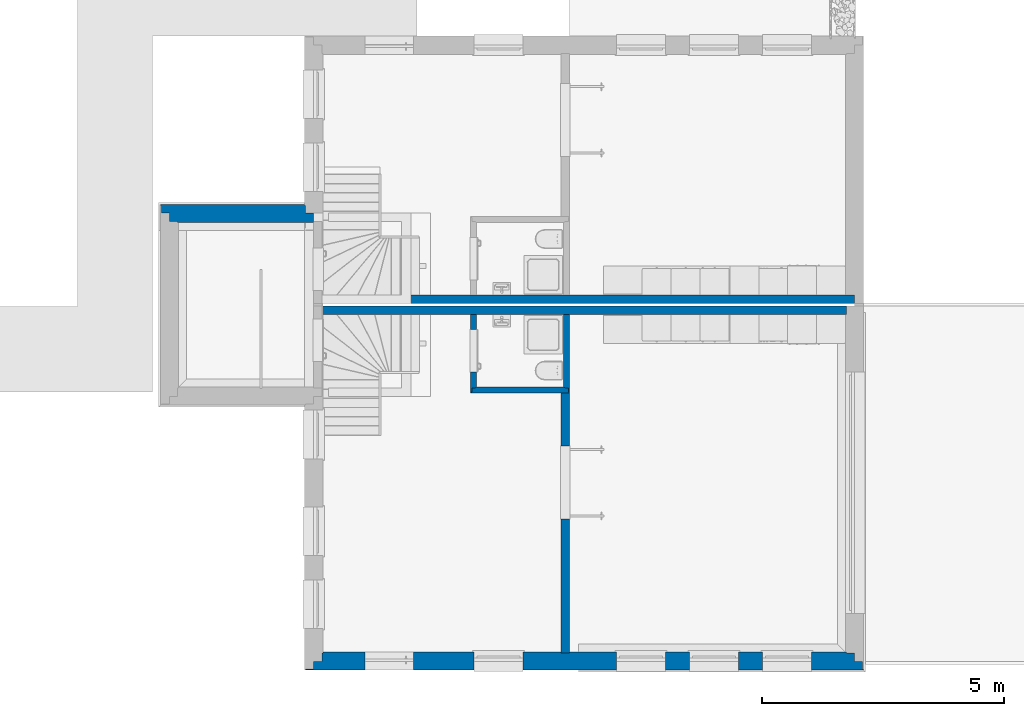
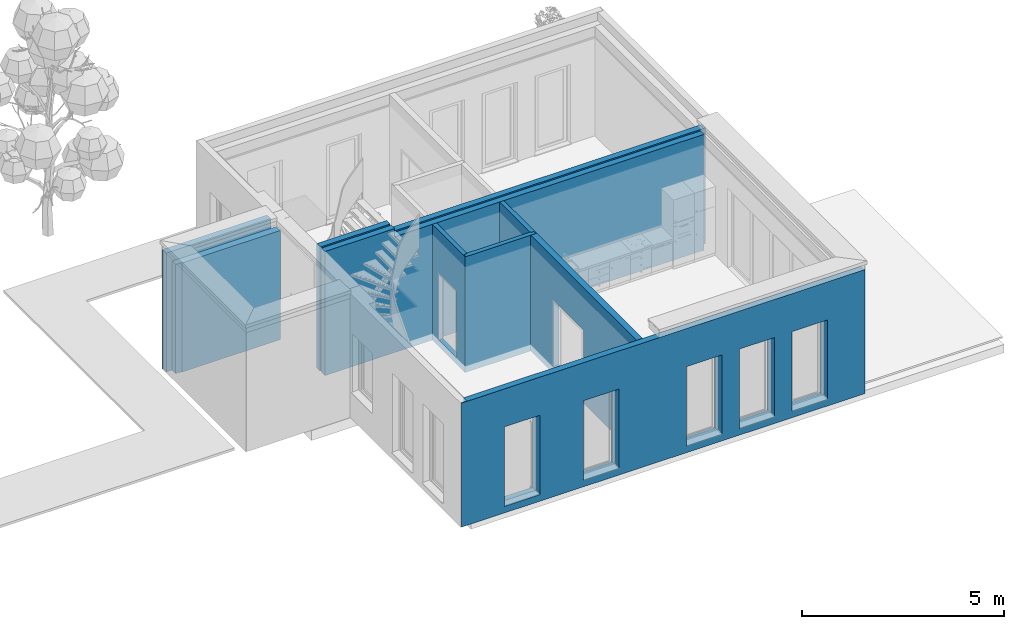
# One storey, part 7 of 28: 8 walls.
"""IFC4 building model written with IfcOpenShell, lengths in metres."""

from ifc_helpers import new_model, entity, si_unit, converted_unit, derived_unit, direction, frame, origin_with_axes, place, context, subcontext, project, spatial, triangles, material, constituent, constituent_set, type_object, element, save


model = new_model("IFC4")

# Units and contexts
model_context = context("Model", 3, precision=1e-05, world=origin_with_axes(), true_north=direction((-0.526213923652, 0.850352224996)))
body_context = subcontext(model_context, "Body", "Model", "MODEL_VIEW")
ifc_project = project(units=[si_unit("LENGTHUNIT", "METRE"), si_unit("AREAUNIT", "SQUARE_METRE"), si_unit("VOLUMEUNIT", "CUBIC_METRE"), converted_unit("PLANEANGLEUNIT", "DEGREE", entity("IfcPlaneAngleMeasure", 0.0174532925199), si_unit("PLANEANGLEUNIT", "RADIAN"), dimensions=[0, 0, 0, 0, 0, 0, 0]), si_unit("SOLIDANGLEUNIT", "STERADIAN"), converted_unit("TIMEUNIT", "Year", entity("IfcTimeMeasure", 31556926.0), si_unit("TIMEUNIT", "SECOND"), dimensions=[0, 0, 1, 0, 0, 0, 0]), si_unit("MASSUNIT", "GRAM", prefix="KILO"), si_unit("THERMODYNAMICTEMPERATUREUNIT", "DEGREE_CELSIUS"), si_unit("LUMINOUSINTENSITYUNIT", "LUMEN"), si_unit("ENERGYUNIT", "JOULE", prefix="MEGA"), derived_unit("THERMALCONDUCTANCEUNIT", [(si_unit("POWERUNIT", "WATT"), 1), (si_unit("LENGTHUNIT", "METRE"), -1), (si_unit("THERMODYNAMICTEMPERATUREUNIT", "KELVIN"), -1)]), derived_unit("SPECIFICHEATCAPACITYUNIT", [(si_unit("ENERGYUNIT", "JOULE"), 1), (si_unit("MASSUNIT", "GRAM", prefix="KILO"), -1), (si_unit("THERMODYNAMICTEMPERATUREUNIT", "KELVIN"), -1)]), derived_unit("MASSDENSITYUNIT", [(si_unit("MASSUNIT", "GRAM", prefix="KILO"), 1), (si_unit("VOLUMEUNIT", "CUBIC_METRE"), -1)])], contexts=[model_context])

# Site, building, storey, space
site_placement = place(None, origin_with_axes())
site = spatial("IfcSite", under=ifc_project, at=site_placement, Name="Gelände", CompositionType="ELEMENT")
building_placement = place(site_placement, origin_with_axes())
building = spatial("IfcBuilding", under=site, at=building_placement, Name="Haus vom Nikolaus", CompositionType="ELEMENT")
storey_placement = place(building_placement, origin_with_axes())
storey = spatial("IfcBuildingStorey", under=building, at=storey_placement, Name="EG", CompositionType="ELEMENT", Elevation=0.0)
space_placement = place(storey_placement, frame((-3.09538684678, 5.36483190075, 0.0), z_axis=(0.0, 0.0, 1.0), x_axis=(1.0, 0.0, 0.0)))
space = spatial("IfcSpace", under=storey, at=space_placement, Name="EG", CompositionType="ELEMENT")

# Walls
ifc_material_1 = material(Name="Verputz, Zement")
ifc_constituent_1 = constituent(ifc_material_1, Name="Component 1")
ifc_material_2 = material(Name="Dämmung, weich Mineralwolle 2")
ifc_constituent_2 = constituent(ifc_material_2, Name="Component 2")
ifc_material_3 = material(Name="MW Kalksandstein")
ifc_constituent_3 = constituent(ifc_material_3, Name="Component 3")
ifc_constituent_4 = constituent(ifc_material_1, Name="Component 4")
ifc_constituent_set_1 = constituent_set(constituents=[ifc_constituent_1, ifc_constituent_2, ifc_constituent_3, ifc_constituent_4], Name="WA | 2 Schichtig KS")
wall_type_1 = type_object("IfcWallType", Name="WA | 2 Schichtig KS 375", PredefinedType="NOTDEFINED")
wall_1_placement = place(space_placement, frame((0.375, 3.77500017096, 0.0), z_axis=(0.0, 0.0, 1.0), x_axis=(1.0, 0.0, 0.0)))
element("IfcWall", 1, at=wall_1_placement, inside=space, type_object=wall_type_1, material=ifc_constituent_set_1, Name="Wand-001", context=body_context, shape_type="Tessellation", body=[
    triangles([(-0.375, 0.355, 3.6), (2.60538443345, 0.375, 3.6), (-0.375, 0.375, 3.6), (2.60538443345, 0.355, 3.6), (2.60538443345, 0.375, 0.0), (-0.375, 0.375, 0.0), (-0.375, 0.355, 0.0), (2.60538443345, 0.355, 0.0)], [[1, 2, 3], [1, 4, 2], [3, 5, 6], [3, 2, 5], [6, 1, 3], [6, 7, 1], [7, 4, 1], [7, 8, 4], [5, 4, 8], [5, 2, 4], [6, 8, 7], [6, 5, 8]], closed=True),
    triangles([(-0.355, 0.195, 3.6), (2.62538443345, 0.355, 3.6), (-0.355, 0.355, 3.6), (2.62538443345, 0.195, 3.6), (2.62538443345, 0.355, 0.0), (-0.355, 0.355, 0.0), (-0.355, 0.195, 0.0), (2.62538443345, 0.195, 0.0)], [[1, 2, 3], [1, 4, 2], [3, 5, 6], [3, 2, 5], [6, 1, 3], [6, 7, 1], [7, 4, 1], [7, 8, 4], [5, 4, 8], [5, 2, 4], [6, 8, 7], [6, 5, 8]], closed=True),
    triangles([(-0.195, 0.195, 0.0), (2.78538443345, 0.195, 3.3), (2.78538443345, 0.195, 0.0), (-0.195, 0.195, 3.3), (2.78538443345, 0.02, 3.3), (-0.195, 0.02, 3.3), (2.78538443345, 0.02, 0.0), (-0.195, 0.02, 0.0)], [[1, 2, 3], [2, 1, 4], [4, 5, 2], [4, 6, 5], [7, 2, 5], [7, 3, 2], [7, 1, 3], [7, 8, 1], [1, 6, 4], [1, 8, 6], [8, 5, 6], [8, 7, 5]], closed=True),
    triangles([(2.78538446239, 0.02, 0.0), (-0.02, 0.02, 3.3), (2.78538446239, 0.02, 3.3), (-0.02, 0.02, 0.0), (2.78538446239, 0.0, 3.3), (-0.02, 0.0, 3.3), (2.78538446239, 0.0, 0.0), (-0.02, 0.0, 0.0)], [[1, 2, 3], [1, 4, 2], [2, 5, 3], [2, 6, 5], [7, 3, 5], [7, 1, 3], [7, 4, 1], [7, 8, 4], [4, 6, 2], [4, 8, 6], [8, 5, 6], [8, 7, 5]], closed=True),
])
ifc_constituent_5 = constituent(ifc_material_1, Name="Component 1")
ifc_constituent_6 = constituent(ifc_material_3, Name="Component 2")
ifc_constituent_7 = constituent(ifc_material_2, Name="Component 3")
ifc_constituent_8 = constituent(ifc_material_1, Name="Component 4")
ifc_constituent_set_2 = constituent_set(constituents=[ifc_constituent_5, ifc_constituent_6, ifc_constituent_7, ifc_constituent_8], Name="WA | 2 Schichtig KS")
wall_2_placement = place(space_placement, frame((3.35538446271, -5.10499977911, 0.0), z_axis=(0.0, 0.0, 1.0), x_axis=(1.0, 0.0, 0.0)))
element("IfcWall", 2, at=wall_2_placement, inside=space, type_object=wall_type_1, material=ifc_constituent_set_2, Name="Wand-005", context=body_context, shape_type="Tessellation", body=[
    triangles([(3.1299999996, -0.02, 0.2), (4.93, -0.02, 0.0), (4.1399999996, -0.02, 0.2), (1.88039621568, -0.02, 2.6), (4.93, -0.02, 3.5), (1.03509045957e-06, -0.02, 3.5), (4.1399999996, -0.02, 2.6), (0.870396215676, -0.02, 2.6), (1.03509045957e-06, -0.02, 0.0), (0.870396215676, -0.02, 0.2), (3.1299999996, -0.02, 2.6), (1.88039621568, -0.02, 0.2), (4.93, 0.0, 0.0), (0.0, 0.0, 0.0), (4.93, -0.0188789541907, 3.15), (4.93, -0.0188789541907, 3.2), (4.93, 0.0, 3.5), (4.93, 0.0, 3.15), (4.93, 0.0, 3.2), (0.0, 0.0, 3.5), (9.77071269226e-07, -0.0188789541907, 3.2), (9.77071269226e-07, -0.0188789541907, 3.15), (0.0, 0.0, 3.2), (0.0, 0.0, 3.15), (4.1399999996, 0.0, 2.6), (3.1299999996, 0.0, 2.6), (4.1399999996, 0.0, 0.2), (3.1299999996, 0.0, 0.2), (0.870396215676, 0.0, 0.2), (0.870396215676, 0.0, 2.6), (1.88039621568, 0.0, 2.6), (1.88039621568, 0.0, 0.2)], [[1, 2, 3], [4, 5, 6], [7, 3, 2], [8, 9, 10], [7, 5, 11], [5, 7, 2], [12, 1, 4], [9, 2, 1], [4, 1, 11], [9, 8, 6], [5, 4, 11], [4, 6, 8], [9, 12, 10], [9, 1, 12], [9, 13, 2], [13, 9, 14], [13, 15, 2], [5, 2, 15], [16, 17, 5], [16, 5, 15], [15, 13, 18], [17, 16, 19], [17, 6, 5], [6, 17, 20], [20, 21, 6], [22, 6, 21], [21, 20, 23], [24, 14, 22], [9, 6, 22], [9, 22, 14], [11, 25, 7], [11, 26, 25], [7, 27, 3], [7, 25, 27], [3, 28, 1], [3, 27, 28], [1, 26, 11], [1, 28, 26], [8, 29, 30], [8, 10, 29], [4, 30, 31], [4, 8, 30], [12, 31, 32], [12, 4, 31], [10, 32, 29], [10, 12, 32], [13, 14, 32], [25, 13, 27], [26, 18, 25], [13, 25, 18], [31, 18, 26], [13, 28, 27], [32, 26, 28], [30, 14, 24], [13, 32, 28], [29, 32, 14], [18, 31, 24], [32, 31, 26], [14, 30, 29], [31, 30, 24], [23, 17, 19], [17, 23, 20], [18, 22, 15], [22, 18, 24], [16, 22, 21], [16, 15, 22], [19, 21, 23], [21, 19, 16]], closed=True),
    triangles([(5.105, -0.02, 0.0), (10.825, -0.02, 0.0), (9.0949999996, -0.02, 0.2), (6.0749999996, -0.02, 2.6), (6.0749999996, -0.02, 0.2), (7.5849999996, -0.02, 2.6), (5.105, -0.02, 3.15), (7.0849999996, -0.02, 2.6), (7.0849999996, -0.02, 0.2), (10.825, -0.02, 3.15), (9.0949999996, -0.02, 2.6), (8.5949999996, -0.02, 0.2), (8.5949999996, -0.02, 2.6), (7.5849999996, -0.02, 0.2), (10.1049999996, -0.02, 2.6), (10.1049999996, -0.02, 0.2), (10.825, 0.0, 0.0), (10.825, 0.0, 3.15), (5.105, 0.0, 3.15), (5.105, 0.0, 0.0), (7.0849999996, 0.0, 2.6), (7.0849999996, 0.0, 0.2), (6.0749999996, 0.0, 0.2), (6.0749999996, 0.0, 2.6), (8.5949999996, 0.0, 2.6), (7.5849999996, 0.0, 2.6), (8.5949999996, 0.0, 0.2), (7.5849999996, 0.0, 0.2), (9.0949999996, 0.0, 0.2), (9.0949999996, 0.0, 2.6), (10.1049999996, 0.0, 2.6), (10.1049999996, 0.0, 0.2)], [[1, 2, 3], [4, 1, 5], [6, 7, 8], [9, 6, 8], [10, 7, 6], [11, 12, 3], [9, 5, 1], [4, 8, 7], [1, 4, 7], [10, 6, 13], [14, 6, 9], [12, 11, 13], [1, 12, 14], [1, 14, 9], [1, 3, 12], [15, 10, 11], [16, 2, 15], [13, 11, 10], [10, 15, 2], [2, 16, 3], [10, 17, 18], [10, 2, 17], [18, 7, 10], [18, 19, 7], [19, 1, 7], [19, 20, 1], [20, 2, 1], [20, 17, 2], [21, 9, 8], [21, 22, 9], [22, 5, 9], [22, 23, 5], [23, 4, 5], [23, 24, 4], [24, 8, 4], [24, 21, 8], [6, 25, 13], [6, 26, 25], [13, 27, 12], [13, 25, 27], [12, 28, 14], [12, 27, 28], [14, 26, 6], [14, 28, 26], [11, 29, 30], [11, 3, 29], [15, 30, 31], [15, 11, 30], [16, 31, 32], [16, 15, 31], [3, 32, 29], [3, 16, 32], [22, 20, 23], [29, 17, 27], [19, 18, 25], [24, 19, 21], [24, 23, 20], [19, 24, 20], [17, 22, 28], [17, 20, 22], [26, 22, 21], [32, 17, 29], [19, 25, 26], [19, 26, 21], [26, 28, 22], [17, 28, 27], [29, 27, 25], [17, 31, 18], [30, 29, 25], [31, 17, 32], [30, 18, 31], [18, 30, 25]], closed=True),
    triangles([(10.825, 0.0, 3.5), (10.825, -0.02, 3.2), (10.825, 0.0, 3.2), (10.825, -0.02, 3.5), (5.105, 0.0, 3.2), (5.105, -0.02, 3.2), (5.105, 0.0, 3.5), (5.105, -0.02, 3.5)], [[1, 2, 3], [1, 4, 2], [2, 5, 3], [2, 6, 5], [1, 5, 7], [5, 1, 3], [7, 4, 1], [7, 8, 4], [4, 6, 2], [4, 8, 6], [7, 6, 8], [6, 7, 5]], closed=True),
    triangles([(-0.0199899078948, -0.195, 0.0), (11.0, -0.195, 0.0), (8.5949999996, -0.195, 0.2), (1.88039621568, -0.195, 0.2), (3.1299999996, -0.195, 0.2), (1.88039621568, -0.195, 2.6), (4.1399999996, -0.195, 2.6), (-0.0199899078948, -0.194999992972, 3.5), (3.1299999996, -0.195, 2.6), (0.870396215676, -0.195, 2.6), (0.870396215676, -0.195, 0.2), (6.0749999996, -0.195, 0.2), (6.0749999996, -0.195, 2.6), (4.1399999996, -0.195, 0.2), (7.5849999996, -0.195, 2.6), (7.0849999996, -0.195, 2.6), (7.5849999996, -0.195, 0.2), (7.0849999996, -0.195, 0.2), (11.0, -0.194999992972, 3.5), (10.1049999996, -0.195, 0.2), (10.1049999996, -0.195, 2.6), (9.0949999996, -0.195, 2.6), (8.5949999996, -0.195, 2.6), (9.0949999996, -0.195, 0.2), (-0.0199989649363, -0.02, 0.0), (-0.0199989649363, -0.02, 3.5), (11.0, -0.02, 0.0), (11.0, -0.02, 3.5), (3.1299999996, -0.02, 0.2), (3.1299999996, -0.02, 2.6), (4.1399999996, -0.02, 2.6), (4.1399999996, -0.02, 0.2), (6.0749999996, -0.02, 0.2), (7.0849999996, -0.02, 0.2), (6.0749999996, -0.02, 2.6), (7.0849999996, -0.02, 2.6), (8.5949999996, -0.02, 2.6), (8.5949999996, -0.02, 0.2), (7.5849999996, -0.02, 0.2), (7.5849999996, -0.02, 2.6), (9.0949999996, -0.02, 2.6), (10.1049999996, -0.02, 2.6), (10.1049999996, -0.02, 0.2), (9.0949999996, -0.02, 0.2), (0.870396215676, -0.02, 0.2), (0.870396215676, -0.02, 2.6), (1.88039621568, -0.02, 2.6), (1.88039621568, -0.02, 0.2)], [[1, 2, 3], [4, 5, 6], [1, 5, 4], [7, 8, 9], [10, 1, 11], [12, 13, 7], [13, 8, 7], [1, 14, 5], [12, 7, 14], [15, 16, 17], [1, 12, 14], [1, 18, 12], [16, 19, 13], [8, 13, 19], [20, 2, 21], [17, 16, 18], [22, 19, 23], [1, 17, 18], [1, 3, 17], [15, 23, 19], [16, 15, 19], [3, 22, 23], [21, 19, 22], [24, 3, 2], [19, 21, 2], [24, 2, 20], [3, 24, 22], [6, 9, 8], [1, 10, 8], [6, 8, 10], [9, 6, 5], [4, 11, 1], [8, 25, 1], [25, 8, 26], [27, 1, 25], [27, 2, 1], [27, 19, 2], [27, 28, 19], [8, 28, 26], [8, 19, 28], [9, 29, 30], [9, 5, 29], [7, 30, 31], [7, 9, 30], [14, 31, 32], [14, 7, 31], [5, 32, 29], [5, 14, 32], [33, 18, 34], [33, 12, 18], [13, 33, 35], [33, 13, 12], [36, 13, 35], [36, 16, 13], [34, 16, 36], [34, 18, 16], [37, 3, 23], [37, 38, 3], [38, 17, 3], [38, 39, 17], [39, 15, 17], [39, 40, 15], [40, 23, 15], [40, 37, 23], [41, 21, 22], [21, 41, 42], [21, 43, 20], [21, 42, 43], [20, 44, 24], [20, 43, 44], [24, 41, 22], [24, 44, 41], [10, 45, 46], [10, 11, 45], [10, 47, 6], [47, 10, 46], [4, 47, 48], [4, 6, 47], [11, 48, 45], [11, 4, 48], [48, 47, 30], [27, 25, 29], [27, 32, 33], [27, 29, 32], [30, 26, 31], [33, 31, 35], [35, 26, 28], [26, 35, 31], [27, 33, 34], [31, 33, 32], [27, 34, 39], [36, 35, 28], [40, 39, 34], [40, 34, 36], [42, 27, 43], [40, 36, 28], [37, 40, 28], [27, 38, 44], [27, 39, 38], [44, 38, 41], [41, 37, 28], [27, 42, 28], [41, 28, 42], [37, 41, 38], [44, 43, 27], [48, 30, 29], [46, 25, 26], [48, 29, 25], [45, 48, 25], [46, 26, 47], [30, 47, 26], [25, 46, 45]], closed=True),
    triangles([(-0.194981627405, -0.355, 0.0), (11.16, -0.355, 0.0), (7.0849999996, -0.355, 0.2), (4.1399999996, -0.355, 2.6), (-0.194981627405, -0.355, 3.75000000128), (3.1299999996, -0.355, 2.6), (1.88039621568, -0.355, 0.2), (3.1299999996, -0.355, 0.2), (1.88039621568, -0.355, 2.6), (11.16, -0.355, 3.75000000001), (0.870396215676, -0.355, 2.6), (0.870396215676, -0.355, 0.2), (6.0749999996, -0.355, 0.2), (6.0749999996, -0.355, 2.6), (4.1399999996, -0.355, 0.2), (7.5849999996, -0.355, 2.6), (7.0849999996, -0.355, 2.6), (7.5849999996, -0.355, 0.2), (10.1049999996, -0.355, 0.2), (10.1049999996, -0.355, 2.6), (9.0949999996, -0.355, 2.6), (8.5949999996, -0.355, 2.6), (8.5949999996, -0.355, 0.2), (9.0949999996, -0.355, 0.2), (11.16, -0.195, 0.0), (-0.194989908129, -0.195, 0.0), (11.16, -0.195, 3.75000000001), (-0.194989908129, -0.195, 3.75000000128), (3.1299999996, -0.195, 0.2), (3.1299999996, -0.195, 2.6), (4.1399999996, -0.195, 2.6), (4.1399999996, -0.195, 0.2), (6.0749999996, -0.195, 0.2), (7.0849999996, -0.195, 0.2), (6.0749999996, -0.195, 2.6), (7.0849999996, -0.195, 2.6), (8.5949999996, -0.195, 2.6), (8.5949999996, -0.195, 0.2), (7.5849999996, -0.195, 0.2), (7.5849999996, -0.195, 2.6), (10.1049999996, -0.195, 2.6), (9.0949999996, -0.195, 2.6), (10.1049999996, -0.195, 0.2), (9.0949999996, -0.195, 0.2), (0.870396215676, -0.195, 0.2), (0.870396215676, -0.195, 2.6), (1.88039621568, -0.195, 2.6), (1.88039621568, -0.195, 0.2)], [[1, 2, 3], [4, 5, 6], [7, 8, 9], [10, 5, 4], [11, 1, 12], [13, 14, 4], [10, 4, 14], [1, 15, 8], [13, 4, 15], [16, 17, 18], [1, 13, 15], [1, 3, 13], [17, 10, 14], [19, 2, 20], [18, 3, 2], [21, 10, 22], [18, 2, 23], [3, 18, 17], [16, 22, 10], [17, 16, 10], [24, 22, 23], [20, 10, 21], [24, 23, 2], [10, 20, 2], [24, 2, 19], [22, 24, 21], [9, 8, 6], [1, 11, 5], [9, 6, 5], [9, 5, 11], [7, 12, 1], [8, 7, 1], [1, 25, 2], [25, 1, 26], [25, 10, 2], [10, 25, 27], [27, 5, 10], [27, 28, 5], [1, 28, 26], [1, 5, 28], [6, 29, 30], [6, 8, 29], [4, 30, 31], [4, 6, 30], [15, 31, 32], [15, 4, 31], [8, 32, 29], [8, 15, 32], [33, 3, 34], [33, 13, 3], [35, 13, 33], [35, 14, 13], [36, 14, 35], [36, 17, 14], [34, 17, 36], [34, 3, 17], [37, 23, 22], [37, 38, 23], [38, 18, 23], [38, 39, 18], [39, 16, 18], [39, 40, 16], [40, 22, 16], [40, 37, 22], [21, 41, 20], [21, 42, 41], [20, 43, 19], [20, 41, 43], [19, 44, 24], [19, 43, 44], [24, 42, 21], [24, 44, 42], [11, 45, 46], [11, 12, 45], [9, 46, 47], [9, 11, 46], [7, 47, 48], [7, 9, 47], [12, 48, 45], [12, 7, 48], [48, 47, 30], [25, 26, 48], [25, 32, 33], [25, 29, 32], [30, 28, 31], [33, 31, 35], [35, 28, 27], [28, 35, 31], [25, 33, 34], [31, 33, 32], [25, 34, 39], [36, 35, 27], [40, 39, 34], [40, 34, 36], [41, 25, 43], [40, 36, 27], [37, 40, 27], [25, 38, 44], [25, 39, 38], [44, 38, 42], [42, 38, 37], [25, 41, 27], [42, 37, 27], [42, 27, 41], [44, 43, 25], [48, 30, 29], [46, 26, 28], [25, 48, 29], [45, 48, 26], [46, 28, 47], [30, 47, 28], [26, 46, 45]], closed=True),
    triangles([(-0.354980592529, -0.375, 0.0), (11.18, -0.375, 0.0), (7.0849999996, -0.375, 0.2), (4.1399999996, -0.375, 2.6), (-0.354980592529, -0.375, 3.75000000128), (3.1299999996, -0.375, 2.6), (1.88039621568, -0.375, 0.2), (3.1299999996, -0.375, 0.2), (1.88039621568, -0.375, 2.6), (11.18, -0.375, 3.75000000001), (0.870396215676, -0.375, 2.6), (0.870396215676, -0.375, 0.2), (4.1399999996, -0.375, 0.2), (6.0749999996, -0.375, 2.6), (6.0749999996, -0.375, 0.2), (7.5849999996, -0.375, 2.6), (7.0849999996, -0.375, 2.6), (7.5849999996, -0.375, 0.2), (10.1049999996, -0.375, 0.2), (10.1049999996, -0.375, 2.6), (9.0949999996, -0.375, 2.6), (8.5949999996, -0.375, 2.6), (8.5949999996, -0.375, 0.2), (9.0949999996, -0.375, 0.2), (11.18, -0.355, 0.0), (-0.35498162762, -0.355, 0.0), (11.18, -0.355, 3.75000000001), (-0.35498162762, -0.355, 3.75000000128), (3.1299999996, -0.355, 0.2), (3.1299999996, -0.355, 2.6), (4.1399999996, -0.355, 2.6), (4.1399999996, -0.355, 0.2), (6.0749999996, -0.355, 0.2), (7.0849999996, -0.355, 0.2), (6.0749999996, -0.355, 2.6), (7.0849999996, -0.355, 2.6), (8.5949999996, -0.355, 2.6), (8.5949999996, -0.355, 0.2), (7.5849999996, -0.355, 0.2), (7.5849999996, -0.355, 2.6), (10.1049999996, -0.355, 2.6), (9.0949999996, -0.355, 2.6), (10.1049999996, -0.355, 0.2), (9.0949999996, -0.355, 0.2), (0.870396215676, -0.355, 0.2), (0.870396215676, -0.355, 2.6), (1.88039621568, -0.355, 2.6), (1.88039621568, -0.355, 0.2)], [[1, 2, 3], [4, 5, 6], [7, 8, 9], [1, 8, 7], [10, 5, 4], [11, 1, 12], [13, 14, 4], [10, 4, 14], [1, 13, 8], [14, 13, 15], [16, 17, 18], [1, 15, 13], [1, 3, 15], [17, 10, 14], [19, 2, 20], [18, 3, 2], [21, 10, 22], [18, 2, 23], [3, 18, 17], [16, 22, 10], [17, 16, 10], [24, 22, 23], [20, 10, 21], [24, 23, 2], [10, 20, 2], [24, 2, 19], [22, 24, 21], [9, 8, 6], [1, 11, 5], [9, 6, 5], [9, 5, 11], [7, 12, 1], [1, 25, 2], [25, 1, 26], [2, 27, 10], [2, 25, 27], [27, 5, 10], [27, 28, 5], [1, 28, 26], [1, 5, 28], [6, 29, 30], [6, 8, 29], [4, 30, 31], [4, 6, 30], [13, 31, 32], [13, 4, 31], [8, 32, 29], [8, 13, 32], [33, 3, 34], [33, 15, 3], [35, 15, 33], [35, 14, 15], [36, 14, 35], [36, 17, 14], [34, 17, 36], [34, 3, 17], [37, 23, 22], [37, 38, 23], [38, 18, 23], [38, 39, 18], [39, 16, 18], [39, 40, 16], [40, 22, 16], [40, 37, 22], [21, 41, 20], [21, 42, 41], [20, 43, 19], [20, 41, 43], [19, 44, 24], [19, 43, 44], [24, 42, 21], [24, 44, 42], [11, 45, 46], [11, 12, 45], [9, 46, 47], [9, 11, 46], [7, 47, 48], [7, 9, 47], [12, 48, 45], [12, 7, 48], [48, 47, 30], [25, 26, 48], [25, 32, 33], [25, 29, 32], [30, 28, 31], [33, 31, 35], [35, 28, 27], [28, 35, 31], [25, 33, 34], [31, 33, 32], [25, 34, 39], [36, 35, 27], [40, 39, 34], [40, 34, 36], [41, 25, 43], [40, 36, 27], [37, 40, 27], [25, 38, 44], [25, 39, 38], [44, 38, 42], [42, 38, 37], [25, 41, 27], [42, 37, 27], [42, 27, 41], [44, 43, 25], [48, 30, 29], [46, 26, 28], [25, 48, 29], [45, 48, 26], [46, 28, 47], [30, 47, 28], [26, 46, 45]], closed=True),
])
ifc_constituent_9 = constituent(ifc_material_3, Name="Component 1")
ifc_constituent_set_3 = constituent_set(constituents=[ifc_constituent_9], Name="WI | MW_tr")
wall_type_2 = type_object("IfcWallType", Name="WI | MW_tr 175", PredefinedType="NOTDEFINED")
wall_3_placement = place(space_placement, frame((3.33538440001, 1.87500017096, 0.0), z_axis=(0.0, 0.0, 1.0), x_axis=(1.0, 0.0, 0.0)))
element("IfcWall", 3, at=wall_3_placement, inside=space, type_object=wall_type_2, material=ifc_constituent_set_3, Name="Wand-004", context=body_context, shape_type="Tessellation", body=[
    triangles([(0.0, 0.175, 0.0), (0.0, 0.175, 3.75), (2.00038449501, 0.175000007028, 3.5), (2.00038449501, 0.175000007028, 3.75), (10.8450000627, 0.175, 0.0), (10.8450000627, 0.175000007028, 3.5), (2.00038449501, 0.0, 3.75), (0.0, 0.0, 3.75), (2.00038449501, 0.0, 3.5), (10.8450000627, 0.0, 3.5), (10.8450000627, 0.0, 0.0), (0.0, 0.0, 0.0)], [[1, 2, 3], [3, 2, 4], [5, 3, 6], [5, 1, 3], [2, 7, 4], [7, 2, 8], [4, 9, 3], [4, 7, 9], [6, 9, 10], [6, 3, 9], [10, 5, 6], [10, 11, 5], [5, 12, 1], [5, 11, 12], [2, 12, 8], [2, 1, 12], [12, 9, 8], [11, 9, 12], [8, 9, 7], [9, 11, 10]], closed=True),
])
ifc_constituent_10 = constituent(ifc_material_3, Name="Component 1")
ifc_constituent_set_4 = constituent_set(constituents=[ifc_constituent_10], Name="WI | MW_tr")
wall_4_placement = place(space_placement, frame((3.33538440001, 2.10000020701, 0.0), z_axis=(0.0, 0.0, 1.0), x_axis=(1.0, 0.0, 0.0)))
element("IfcWall", 4, at=wall_4_placement, inside=space, type_object=wall_type_2, material=ifc_constituent_set_4, Name="Wand-004", context=body_context, shape_type="Tessellation", body=[
    triangles([(6.2383970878e-08, 0.175, 3.3), (2.00038449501, 0.175, 3.5), (6.2383970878e-08, 0.175, 0.0), (0.0, 0.175, 3.75), (2.00038449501, 0.175, 3.75), (11.0200000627, 0.175, 0.0), (11.0200000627, 0.175, 3.5), (0.0, 0.0, 3.75), (2.00038449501, -2.76304241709e-08, 3.75), (2.00038449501, -2.76304241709e-08, 3.5), (11.0200000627, -8.09346740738e-08, 3.5), (11.0200000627, 0.0, 0.0), (6.2383970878e-08, 6.44082298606e-09, 0.0), (6.2383970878e-08, 0.0, 3.3)], [[1, 2, 3], [2, 4, 5], [6, 2, 7], [6, 3, 2], [2, 1, 4], [5, 8, 9], [5, 4, 8], [5, 10, 2], [5, 9, 10], [7, 10, 11], [7, 2, 10], [12, 7, 11], [7, 12, 6], [13, 6, 12], [13, 3, 6], [1, 13, 14], [13, 1, 3], [1, 8, 4], [1, 14, 8], [14, 10, 8], [12, 10, 13], [8, 10, 9], [13, 10, 14], [10, 12, 11]], closed=True),
])
ifc_constituent_11 = constituent(ifc_material_3, Name="Component 1")
ifc_constituent_set_5 = constituent_set(constituents=[ifc_constituent_11], Name="WI | MW_tr")
wall_5_placement = place(space_placement, frame((8.46038446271, -5.10499977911, 0.0), z_axis=(0.0, 0.0, 1.0), x_axis=(0.0, 1.0, 0.0)))
element("IfcWall", 5, at=wall_5_placement, inside=space, type_object=wall_type_2, material=ifc_constituent_set_5, Name="Wand-006", context=body_context, shape_type="Tessellation", body=[
    triangles([(5.35499995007, 0.175, 0.0), (-0.02, 0.175, 0.0), (2.74499995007, 0.175, 0.2), (4.25499995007, 0.175, 0.2), (2.74499995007, 0.175, 2.21), (-0.02, 0.175, 3.5), (4.25499995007, 0.175, 2.21), (5.35499995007, 0.175, 3.5), (-0.02, 0.0, 3.5), (5.35499995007, 0.0, 3.5), (5.35499995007, 0.0, 0.0), (-0.02, 0.0, 0.0), (2.74499995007, 0.0, 0.2), (4.25499995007, 0.0, 0.2), (4.25499995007, 0.0, 2.21), (2.74499995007, 0.0, 2.21)], [[1, 2, 3], [1, 3, 4], [5, 2, 6], [1, 7, 8], [7, 1, 4], [8, 5, 6], [5, 8, 7], [2, 5, 3], [8, 9, 10], [8, 6, 9], [11, 8, 10], [11, 1, 8], [11, 2, 1], [11, 12, 2], [2, 9, 6], [2, 12, 9], [4, 13, 14], [4, 3, 13], [7, 14, 15], [7, 4, 14], [5, 15, 16], [5, 7, 15], [3, 16, 13], [3, 5, 16], [12, 11, 14], [16, 12, 13], [15, 10, 16], [12, 16, 9], [14, 11, 15], [9, 16, 10], [10, 15, 11], [12, 14, 13]], closed=True),
])
ifc_material_4 = material(Name="Gipskarton")
ifc_constituent_12 = constituent(ifc_material_4, Name="Component 1")
ifc_constituent_13 = constituent(ifc_material_4, Name="Component 2")
ifc_material_5 = material(Name="Dämmung, weich Glaswolle")
ifc_constituent_14 = constituent(ifc_material_5, Name="Component 3")
ifc_constituent_15 = constituent(ifc_material_4, Name="Component 4")
ifc_constituent_16 = constituent(ifc_material_4, Name="Component 5")
ifc_constituent_set_6 = constituent_set(constituents=[ifc_constituent_12, ifc_constituent_13, ifc_constituent_14, ifc_constituent_15, ifc_constituent_16], Name="WI | GK 12 2-lagig")
wall_type_3 = type_object("IfcWallType", Name="WI | GK 12 2-lagig 125", PredefinedType="NOTDEFINED")
wall_6_placement = place(space_placement, frame((8.46038446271, 0.375000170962, 0.0), z_axis=(0.0, 0.0, 1.0), x_axis=(-1.0, 0.0, 0.0)))
element("IfcWall", 6, at=wall_6_placement, inside=space, type_object=wall_type_3, material=ifc_constituent_set_6, Name="Wand-011", context=body_context, shape_type="Tessellation", body=[
    triangles([(0.0, 0.1125, 0.0), (2.05, 0.1125, 3.5), (0.0, 0.1125, 3.5), (2.05, 0.1125, 0.0), (0.0, 0.125, 3.5), (2.05, 0.125, 3.5), (0.0, 0.125, 0.0), (2.05, 0.125, 0.0)], [[1, 2, 3], [1, 4, 2], [2, 5, 3], [2, 6, 5], [7, 3, 5], [7, 1, 3], [1, 8, 4], [1, 7, 8], [4, 6, 2], [4, 8, 6], [8, 5, 6], [8, 7, 5]], closed=True),
    triangles([(0.0125, 0.1, 0.0), (2.0375, 0.1, 3.5), (0.0125, 0.1, 3.5), (2.0375, 0.1, 0.0), (0.0125, 0.1125, 3.5), (2.0375, 0.1125, 3.5), (0.0125, 0.1125, 0.0), (2.0375, 0.1125, 0.0)], [[1, 2, 3], [1, 4, 2], [2, 5, 3], [2, 6, 5], [7, 3, 5], [7, 1, 3], [1, 8, 4], [1, 7, 8], [4, 6, 2], [4, 8, 6], [8, 5, 6], [8, 7, 5]], closed=True),
    triangles([(0.025, 0.025, 0.0), (2.025, 0.025, 3.5), (0.025, 0.025, 3.5), (2.025, 0.025, 0.0), (2.025, 0.1, 3.5), (0.025, 0.1, 3.5), (0.025, 0.1, 0.0), (2.025, 0.1, 0.0)], [[1, 2, 3], [1, 4, 2], [5, 3, 2], [3, 5, 6], [7, 3, 6], [7, 1, 3], [1, 8, 4], [1, 7, 8], [4, 5, 2], [4, 8, 5], [8, 6, 5], [8, 7, 6]], closed=True),
    triangles([(0.1, 0.0125, 0.0), (1.95, 0.0125, 3.5), (0.1, 0.0125, 3.5), (1.95, 0.0125, 0.0), (0.1, 0.025, 3.5), (1.95, 0.025, 3.5), (0.1, 0.025, 0.0), (1.95, 0.025, 0.0)], [[1, 2, 3], [1, 4, 2], [2, 5, 3], [2, 6, 5], [7, 3, 5], [7, 1, 3], [1, 8, 4], [1, 7, 8], [4, 6, 2], [4, 8, 6], [8, 5, 6], [8, 7, 5]], closed=True),
    triangles([(0.1125, 0.0, 0.0), (1.9375, 0.0, 3.5), (0.1125, 0.0, 3.5), (1.9375, 0.0, 0.0), (0.1125, 0.0125, 3.5), (1.9375, 0.0125, 3.5), (0.1125, 0.0125, 0.0), (1.9375, 0.0125, 0.0)], [[1, 2, 3], [1, 4, 2], [2, 5, 3], [2, 6, 5], [7, 3, 5], [7, 1, 3], [1, 8, 4], [1, 7, 8], [4, 6, 2], [4, 8, 6], [8, 5, 6], [8, 7, 5]], closed=True),
])
ifc_constituent_17 = constituent(ifc_material_4, Name="Component 1")
ifc_constituent_18 = constituent(ifc_material_4, Name="Component 2")
ifc_constituent_19 = constituent(ifc_material_5, Name="Component 3")
ifc_constituent_20 = constituent(ifc_material_4, Name="Component 4")
ifc_constituent_21 = constituent(ifc_material_4, Name="Component 5")
ifc_constituent_set_7 = constituent_set(constituents=[ifc_constituent_17, ifc_constituent_18, ifc_constituent_19, ifc_constituent_20, ifc_constituent_21], Name="WI | GK 12 2-lagig")
wall_7_placement = place(space_placement, frame((8.46038446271, 1.87500017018, 0.0), z_axis=(0.0, 0.0, 1.0), x_axis=(0.0, -1.0, 0.0)))
element("IfcWall", 7, at=wall_7_placement, inside=space, type_object=wall_type_3, material=ifc_constituent_set_7, Name="Wand-012", context=body_context, shape_type="Tessellation", body=[
    triangles([(-7.77948372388e-10, 0.0, 0.0), (-7.77948372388e-10, -0.0125, 3.5), (-7.77948372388e-10, 0.0, 3.5), (-7.77948372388e-10, -0.0125, 0.0), (1.61249999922, 0.0, 3.5), (1.61249999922, -0.0125, 3.5), (1.61249999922, 0.0, 0.0), (1.61249999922, -0.0125, 0.0)], [[1, 2, 3], [1, 4, 2], [2, 5, 3], [2, 6, 5], [7, 3, 5], [7, 1, 3], [4, 7, 8], [4, 1, 7], [4, 6, 2], [4, 8, 6], [8, 5, 6], [8, 7, 5]], closed=True),
    triangles([(-7.77948372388e-10, -0.0125, 0.0), (-7.77948372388e-10, -0.025, 3.5), (-7.77948372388e-10, -0.0125, 3.5), (-7.77948372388e-10, -0.025, 0.0), (1.59999999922, -0.0125, 3.5), (1.59999999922, -0.025, 3.5), (1.59999999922, -0.0125, 0.0), (1.59999999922, -0.025, 0.0)], [[1, 2, 3], [1, 4, 2], [2, 5, 3], [2, 6, 5], [7, 3, 5], [7, 1, 3], [4, 7, 8], [4, 1, 7], [4, 6, 2], [4, 8, 6], [8, 5, 6], [8, 7, 5]], closed=True),
    triangles([(-7.77948372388e-10, -0.025, 0.0), (-7.77948372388e-10, -0.1, 3.5), (-7.77948372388e-10, -0.025, 3.5), (-7.77948372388e-10, -0.1, 0.0), (1.52499999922, -0.1, 3.5), (1.52499999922, -0.025, 3.5), (1.52499999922, -0.025, 0.0), (1.52499999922, -0.1, 0.0)], [[1, 2, 3], [1, 4, 2], [5, 3, 2], [3, 5, 6], [7, 3, 6], [7, 1, 3], [4, 7, 8], [4, 1, 7], [4, 5, 2], [4, 8, 5], [8, 6, 5], [8, 7, 6]], closed=True),
    triangles([(-7.77948372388e-10, -0.1, 0.0), (-7.77948372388e-10, -0.1125, 3.5), (-7.77948372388e-10, -0.1, 3.5), (-7.77948372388e-10, -0.1125, 0.0), (1.51249999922, -0.1, 3.5), (1.51249999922, -0.1125, 3.5), (1.51249999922, -0.1, 0.0), (1.51249999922, -0.1125, 0.0)], [[1, 2, 3], [1, 4, 2], [2, 5, 3], [2, 6, 5], [7, 3, 5], [7, 1, 3], [4, 7, 8], [4, 1, 7], [4, 6, 2], [4, 8, 6], [8, 5, 6], [8, 7, 5]], closed=True),
    triangles([(-7.77948372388e-10, -0.1125, 0.0), (-7.77948372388e-10, -0.125, 3.5), (-7.77948372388e-10, -0.1125, 3.5), (-7.77948372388e-10, -0.125, 0.0), (1.49999999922, -0.1125, 3.5), (1.49999999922, -0.125, 3.5), (1.49999999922, -0.1125, 0.0), (1.49999999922, -0.125, 0.0)], [[1, 2, 3], [1, 4, 2], [2, 5, 3], [2, 6, 5], [7, 3, 5], [7, 1, 3], [4, 7, 8], [4, 1, 7], [4, 6, 2], [4, 8, 6], [8, 5, 6], [8, 7, 5]], closed=True),
])
ifc_constituent_22 = constituent(ifc_material_4, Name="Component 1")
ifc_constituent_23 = constituent(ifc_material_4, Name="Component 2")
ifc_constituent_24 = constituent(ifc_material_5, Name="Component 3")
ifc_constituent_25 = constituent(ifc_material_4, Name="Component 4")
ifc_constituent_26 = constituent(ifc_material_4, Name="Component 5")
ifc_constituent_set_8 = constituent_set(constituents=[ifc_constituent_22, ifc_constituent_23, ifc_constituent_24, ifc_constituent_25, ifc_constituent_26], Name="WI | GK 12 2-lagig")
wall_8_placement = place(space_placement, frame((6.41038446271, 0.375000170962, 0.0), z_axis=(0.0, 0.0, 1.0), x_axis=(0.0, 1.0, 0.0)))
element("IfcWall", 8, at=wall_8_placement, inside=space, type_object=wall_type_3, material=ifc_constituent_set_8, Name="Wand-013", context=body_context, shape_type="Tessellation", body=[
    triangles([(-0.1125, 0.0, 0.0), (-0.1125, 0.0, 3.5), (0.306053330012, 0.0, 2.21), (1.5, 0.0, 3.5), (1.19105333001, 0.0, 2.21), (1.19105333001, 0.0, 0.2), (1.5, 0.0, 0.0), (0.306053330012, 0.0, 0.2), (1.5, -0.0125, 3.5), (1.5, -0.0125, 0.0), (-0.1125, -0.0125, 0.0), (-0.1125, -0.0125, 3.5), (0.306053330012, -0.0125, 0.2), (1.19105333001, -0.0125, 0.2), (1.19105333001, -0.0125, 2.21), (0.306053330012, -0.0125, 2.21)], [[1, 2, 3], [3, 4, 5], [6, 7, 8], [1, 8, 7], [7, 5, 4], [5, 7, 6], [4, 3, 2], [1, 3, 8], [7, 9, 10], [7, 4, 9], [1, 10, 11], [1, 7, 10], [11, 2, 1], [11, 12, 2], [2, 9, 4], [2, 12, 9], [6, 13, 14], [6, 8, 13], [5, 14, 15], [5, 6, 14], [3, 15, 16], [3, 5, 15], [8, 16, 13], [8, 3, 16], [10, 9, 15], [16, 11, 13], [10, 13, 11], [16, 9, 12], [11, 16, 12], [16, 15, 9], [14, 13, 10], [15, 14, 10]], closed=True),
    triangles([(-0.1, -0.0125, 0.0), (-0.1, -0.0125, 3.5), (0.306053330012, -0.0125, 2.21), (1.5, -0.0125, 3.5), (1.19105333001, -0.0125, 2.21), (1.19105333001, -0.0125, 0.2), (1.5, -0.0125, 0.0), (0.306053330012, -0.0125, 0.2), (1.5, -0.025, 3.5), (1.5, -0.025, 0.0), (-0.1, -0.025, 0.0), (-0.1, -0.025, 3.5), (0.306053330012, -0.025, 0.2), (1.19105333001, -0.025, 0.2), (1.19105333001, -0.025, 2.21), (0.306053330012, -0.025, 2.21)], [[1, 2, 3], [3, 4, 5], [6, 7, 8], [1, 8, 7], [7, 5, 4], [5, 7, 6], [4, 3, 2], [1, 3, 8], [7, 9, 10], [7, 4, 9], [1, 10, 11], [1, 7, 10], [11, 2, 1], [11, 12, 2], [2, 9, 4], [2, 12, 9], [6, 13, 14], [6, 8, 13], [5, 14, 15], [5, 6, 14], [3, 15, 16], [3, 5, 15], [8, 16, 13], [8, 3, 16], [10, 9, 15], [16, 11, 13], [10, 13, 11], [16, 9, 12], [11, 16, 12], [16, 15, 9], [14, 13, 10], [15, 14, 10]], closed=True),
    triangles([(-0.025, -0.025, 0.0), (-0.025, -0.025, 3.5), (0.306053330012, -0.025, 2.21), (1.5, -0.025, 3.5), (1.19105333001, -0.025, 2.21), (1.19105333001, -0.025, 0.2), (1.5, -0.025, 0.0), (0.306053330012, -0.025, 0.2), (1.5, -0.1, 3.5), (1.5, -0.1, 0.0), (-0.025, -0.1, 0.0), (-0.025, -0.1, 3.5), (0.306053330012, -0.1, 0.2), (1.19105333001, -0.1, 0.2), (1.19105333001, -0.1, 2.21), (0.306053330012, -0.1, 2.21)], [[1, 2, 3], [3, 4, 5], [6, 7, 8], [1, 8, 7], [7, 5, 4], [5, 7, 6], [4, 3, 2], [1, 3, 8], [7, 9, 10], [7, 4, 9], [1, 10, 11], [1, 7, 10], [11, 2, 1], [11, 12, 2], [2, 9, 4], [2, 12, 9], [6, 13, 14], [6, 8, 13], [5, 14, 15], [5, 6, 14], [3, 15, 16], [3, 5, 15], [8, 16, 13], [8, 3, 16], [10, 9, 15], [16, 11, 13], [10, 13, 11], [16, 9, 12], [11, 16, 12], [16, 15, 9], [14, 13, 10], [15, 14, 10]], closed=True),
    triangles([(-0.0125, -0.1, 0.0), (-0.0125, -0.1, 3.5), (0.306053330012, -0.1, 2.21), (1.5, -0.1, 3.5), (1.19105333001, -0.1, 2.21), (1.19105333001, -0.1, 0.2), (1.5, -0.1, 0.0), (0.306053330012, -0.1, 0.2), (1.5, -0.1125, 3.5), (1.5, -0.1125, 0.0), (-0.0125, -0.1125, 0.0), (-0.0125, -0.1125, 3.5), (0.306053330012, -0.1125, 0.2), (1.19105333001, -0.1125, 0.2), (1.19105333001, -0.1125, 2.21), (0.306053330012, -0.1125, 2.21)], [[1, 2, 3], [3, 4, 5], [6, 7, 8], [1, 8, 7], [7, 5, 4], [5, 7, 6], [4, 3, 2], [1, 3, 8], [7, 9, 10], [7, 4, 9], [1, 10, 11], [1, 7, 10], [11, 2, 1], [11, 12, 2], [2, 9, 4], [2, 12, 9], [6, 13, 14], [6, 8, 13], [5, 14, 15], [5, 6, 14], [3, 15, 16], [3, 5, 15], [8, 16, 13], [8, 3, 16], [10, 9, 15], [16, 11, 13], [10, 13, 11], [16, 9, 12], [11, 16, 12], [16, 15, 9], [14, 13, 10], [15, 14, 10]], closed=True),
    triangles([(0.0, -0.1125, 0.0), (0.0, -0.1125, 3.5), (0.306053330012, -0.1125, 2.21), (1.5, -0.1125, 0.0), (1.19105333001, -0.1125, 2.21), (1.5, -0.1125, 3.5), (1.19105333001, -0.1125, 0.2), (0.306053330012, -0.1125, 0.2), (1.5, -0.125, 3.5), (1.5, -0.125, 0.0), (0.0, -0.125, 0.0), (0.0, -0.125, 3.5), (0.306053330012, -0.125, 0.2), (1.19105333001, -0.125, 0.2), (1.19105333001, -0.125, 2.21), (0.306053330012, -0.125, 2.21)], [[1, 2, 3], [4, 5, 6], [1, 7, 4], [7, 1, 8], [3, 2, 5], [5, 4, 7], [6, 5, 2], [1, 3, 8], [4, 9, 10], [4, 6, 9], [1, 10, 11], [1, 4, 10], [11, 2, 1], [11, 12, 2], [2, 9, 6], [2, 12, 9], [7, 13, 14], [7, 8, 13], [5, 14, 15], [5, 7, 14], [3, 15, 16], [3, 5, 15], [8, 16, 13], [8, 3, 16], [10, 9, 15], [16, 11, 13], [14, 11, 10], [15, 12, 16], [11, 16, 12], [12, 15, 9], [11, 14, 13], [15, 14, 10]], closed=True),
])

save(model, "model.ifc")
